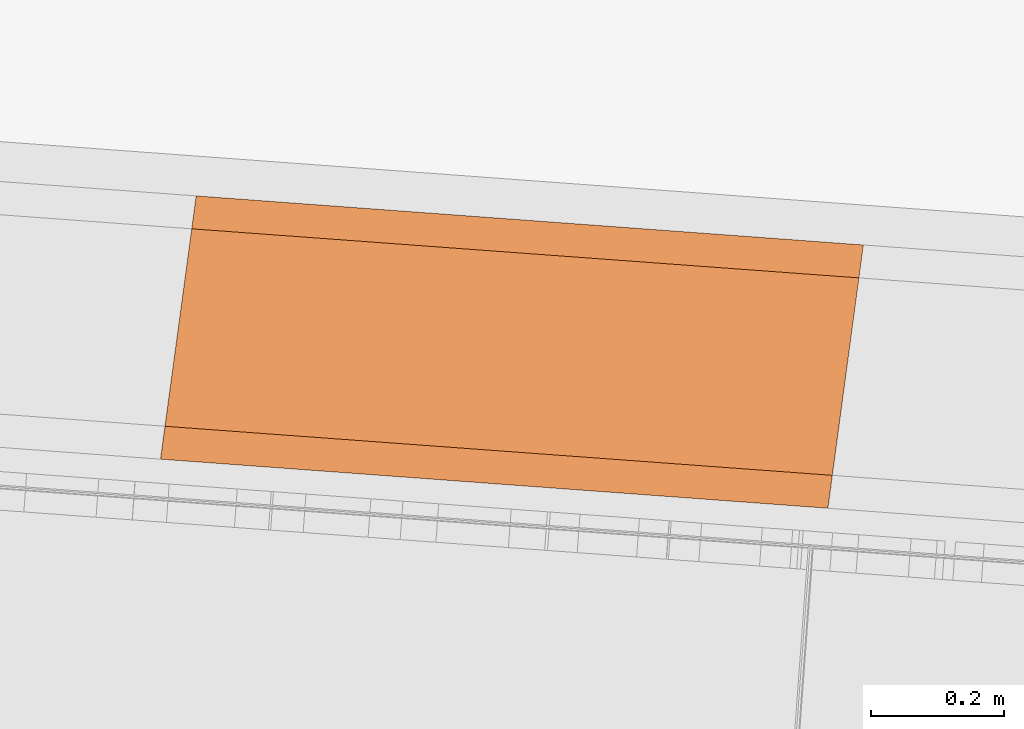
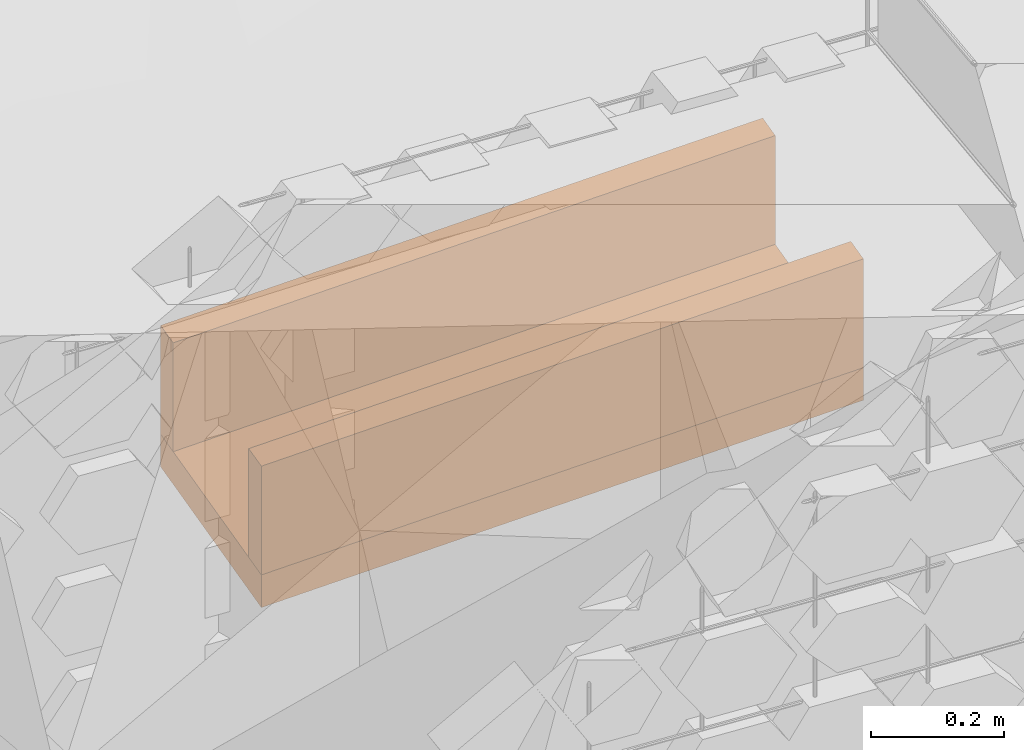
# Not in any storey, part 25 of 46: 3 proxies.
"""IFC4 model written with IfcOpenShell, lengths in metres."""

from ifc_helpers import new_model, si_unit, direction, frame, origin_with_axes, place, context, subcontext, project, spatial, polygons, material, element, save


model = new_model("IFC4")

# Units and contexts
model_context = context("Model", 3, precision=1e-05, world=origin_with_axes(), true_north=direction((0.0, 1.0)))
body_context = subcontext(model_context, "Body", "Model", "MODEL_VIEW")
ifc_project = project(units=[si_unit("VOLUMEUNIT", "CUBIC_METRE"), si_unit("LENGTHUNIT", "METRE"), si_unit("AREAUNIT", "SQUARE_METRE")], contexts=[model_context])

# Site
site_placement = place(None, origin_with_axes())
site = spatial("IfcSite", under=ifc_project, at=site_placement, Name="Lares · Rua das Mercês · artigo 4771")

# Proxies
ifc_material = material(Name="Caleiras · betão", Category="concrete")
proxy_1_placement = place(site_placement, frame((0.0, 0.0, 0.0), z_axis=(0.0, 0.0, 1.0), x_axis=(1.0, -1.03767253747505e-17, 0.0)))
element("IfcBuildingElementProxy", 1, at=proxy_1_placement, inside=site, material=ifc_material, Name="Acesso · canal lateral", ObjectType="Acesso · canal lateral", PredefinedType="USERDEFINED", context=body_context, shape_type="Tessellation", body=[
    polygons([(57.6226760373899, 1.93440152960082, 14.0067482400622), (57.6762744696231, 2.33079427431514, 14.0067482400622), (58.6809436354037, 2.25691467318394, 14.0812062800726), (58.6273452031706, 1.86052192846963, 14.0812062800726), (57.6226760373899, 1.93440152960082, 14.0667482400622), (57.6762744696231, 2.33079427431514, 14.0667482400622), (58.6809436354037, 2.25691467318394, 14.1412062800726), (58.6273452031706, 1.86052192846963, 14.1412062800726)], [[[4, 3, 2, 1]], [[5, 6, 7, 8]], [[1, 2, 6, 5]], [[2, 3, 7, 6]], [[3, 4, 8, 7]], [[4, 1, 5, 8]]]),
])
proxy_2_placement = place(site_placement, frame((0.0, 0.0, 0.0), z_axis=(0.0, 0.0, 1.0), x_axis=(1.0, -1.03767253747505e-17, 0.0)))
element("IfcBuildingElementProxy", 2, at=proxy_2_placement, inside=site, material=ifc_material, Name="Acesso · canal lateral", ObjectType="Acesso · canal lateral", PredefinedType="USERDEFINED", context=body_context, shape_type="Tessellation", body=[
    polygons([(57.6226760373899, 1.93440152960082, 14.0667482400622), (57.629375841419, 1.98395062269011, 14.0667482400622), (58.6340450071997, 1.91007102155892, 14.1412062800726), (58.6273452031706, 1.86052192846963, 14.1412062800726), (57.6226760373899, 1.93440152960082, 14.2667482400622), (57.629375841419, 1.98395062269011, 14.2667482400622), (58.6340450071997, 1.91007102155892, 14.3412062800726), (58.6273452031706, 1.86052192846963, 14.3412062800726)], [[[4, 3, 2, 1]], [[5, 6, 7, 8]], [[1, 2, 6, 5]], [[2, 3, 7, 6]], [[3, 4, 8, 7]], [[4, 1, 5, 8]]]),
])
proxy_3_placement = place(site_placement, frame((0.0, 0.0, 0.0), z_axis=(0.0, 0.0, 1.0), x_axis=(1.0, -1.03767253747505e-17, 0.0)))
element("IfcBuildingElementProxy", 3, at=proxy_3_placement, inside=site, material=ifc_material, Name="Acesso · canal lateral", ObjectType="Acesso · canal lateral", PredefinedType="USERDEFINED", context=body_context, shape_type="Tessellation", body=[
    polygons([(57.6695746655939, 2.28124518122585, 14.0667482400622), (57.6762744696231, 2.33079427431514, 14.0667482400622), (58.6809436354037, 2.25691467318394, 14.1412062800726), (58.6742438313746, 2.20736558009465, 14.1412062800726), (57.6695746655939, 2.28124518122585, 14.2667482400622), (57.6762744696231, 2.33079427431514, 14.2667482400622), (58.6809436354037, 2.25691467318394, 14.3412062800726), (58.6742438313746, 2.20736558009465, 14.3412062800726)], [[[4, 3, 2, 1]], [[5, 6, 7, 8]], [[1, 2, 6, 5]], [[2, 3, 7, 6]], [[3, 4, 8, 7]], [[4, 1, 5, 8]]]),
])

save(model, "model.ifc")
